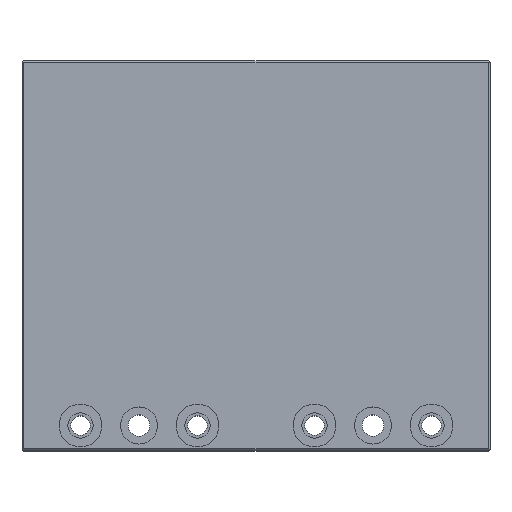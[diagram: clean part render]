
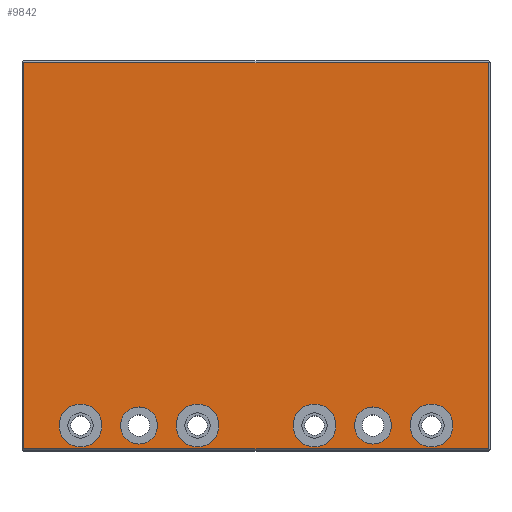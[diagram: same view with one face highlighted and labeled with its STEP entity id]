
A CAD part, top view. The second image highlights one B-rep face of the part: STEP entity #9842.
In plain terms, the highlighted planar face has unit normal (0, 0, 1).
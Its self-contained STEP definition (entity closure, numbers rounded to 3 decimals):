
#141 = ORIENTED_EDGE ( 'NONE', *, *, #6061, .F. ) ;
#142 = ORIENTED_EDGE ( 'NONE', *, *, #11144, .F. ) ;
#395 = DIRECTION ( 'NONE',  ( 0., 0., 1. ) ) ;
#401 = DIRECTION ( 'NONE',  ( 1., 0., 0. ) ) ;
#470 = PLANE ( 'NONE',  #3893 ) ;
#548 = CIRCLE ( 'NONE', #10756, 5.5 ) ;
#555 = CARTESIAN_POINT ( 'NONE',  ( 121.824, 147.019, 87.828 ) ) ;
#595 = EDGE_CURVE ( 'NONE', #10716, #13329, #7020, .T. ) ;
#636 = DIRECTION ( 'NONE',  ( 1., 0., 0. ) ) ;
#683 = DIRECTION ( 'NONE',  ( 0., 0., 1. ) ) ;
#684 = CARTESIAN_POINT ( 'NONE',  ( 127.324, 147.019, 87.828 ) ) ;
#703 = ORIENTED_EDGE ( 'NONE', *, *, #12998, .T. ) ;
#734 = CARTESIAN_POINT ( 'NONE',  ( 76.824, 147.019, 87.828 ) ) ;
#1073 = VERTEX_POINT ( 'NONE', #8623 ) ;
#1148 = EDGE_CURVE ( 'NONE', #1707, #12947, #9068, .T. ) ;
#1167 = VERTEX_POINT ( 'NONE', #5657 ) ;
#1292 = CIRCLE ( 'NONE', #3554, 5.5 ) ;
#1375 = VECTOR ( 'NONE', #11668, 1000. ) ;
#1455 = CARTESIAN_POINT ( 'NONE',  ( 106.824, 190.519, 87.828 ) ) ;
#1492 = CARTESIAN_POINT ( 'NONE',  ( 47.324, 240.019, 87.828 ) ) ;
#1595 = AXIS2_PLACEMENT_3D ( 'NONE', #555, #8112, #3802 ) ;
#1632 = ORIENTED_EDGE ( 'NONE', *, *, #1916, .F. ) ;
#1677 = CIRCLE ( 'NONE', #4491, 5.5 ) ;
#1687 = DIRECTION ( 'NONE',  ( 1., 0., 0. ) ) ;
#1707 = VERTEX_POINT ( 'NONE', #13543 ) ;
#1916 = EDGE_CURVE ( 'NONE', #2502, #1073, #5821, .T. ) ;
#2011 = VERTEX_POINT ( 'NONE', #4116 ) ;
#2018 = DIRECTION ( 'NONE',  ( 0., 0., 1. ) ) ;
#2099 = FACE_BOUND ( 'NONE', #13306, .T. ) ;
#2161 = CARTESIAN_POINT ( 'NONE',  ( 151.824, 147.019, 87.828 ) ) ;
#2265 = AXIS2_PLACEMENT_3D ( 'NONE', #11560, #12692, #12561 ) ;
#2468 = EDGE_CURVE ( 'NONE', #1167, #12604, #8387, .T. ) ;
#2502 = VERTEX_POINT ( 'NONE', #11331 ) ;
#2566 = DIRECTION ( 'NONE',  ( 1., 0., 0. ) ) ;
#2585 = DIRECTION ( 'NONE',  ( 0., 0., 1. ) ) ;
#2640 = VERTEX_POINT ( 'NONE', #1492 ) ;
#2760 = VERTEX_POINT ( 'NONE', #684 ) ;
#2787 = EDGE_LOOP ( 'NONE', ( #11789, #703, #8213, #8614 ) ) ;
#2803 = DIRECTION ( 'NONE',  ( 0., -1., 0. ) ) ;
#3045 = ORIENTED_EDGE ( 'NONE', *, *, #11260, .F. ) ;
#3055 = VERTEX_POINT ( 'NONE', #8475 ) ;
#3176 = ORIENTED_EDGE ( 'NONE', *, *, #12691, .F. ) ;
#3247 = DIRECTION ( 'NONE',  ( 1., 0., 0. ) ) ;
#3377 = CIRCLE ( 'NONE', #9270, 5.5 ) ;
#3476 = EDGE_LOOP ( 'NONE', ( #3176, #141 ) ) ;
#3554 = AXIS2_PLACEMENT_3D ( 'NONE', #2161, #6336, #8552 ) ;
#3677 = EDGE_CURVE ( 'NONE', #12604, #2640, #4178, .T. ) ;
#3720 = FACE_BOUND ( 'NONE', #5077, .T. ) ;
#3802 = DIRECTION ( 'NONE',  ( 1., 0., 0. ) ) ;
#3893 = AXIS2_PLACEMENT_3D ( 'NONE', #1455, #8917, #11996 ) ;
#3978 = DIRECTION ( 'NONE',  ( -1., 0., 0. ) ) ;
#4116 = CARTESIAN_POINT ( 'NONE',  ( 47.324, 141.019, 87.828 ) ) ;
#4178 = LINE ( 'NONE', #12439, #6634 ) ;
#4254 = ORIENTED_EDGE ( 'NONE', *, *, #13416, .F. ) ;
#4471 = CARTESIAN_POINT ( 'NONE',  ( 56.324, 147.019, 87.828 ) ) ;
#4491 = AXIS2_PLACEMENT_3D ( 'NONE', #7200, #10391, #3247 ) ;
#4755 = EDGE_LOOP ( 'NONE', ( #4254, #142 ) ) ;
#4863 = DIRECTION ( 'NONE',  ( 0., 0., 1. ) ) ;
#4883 = VECTOR ( 'NONE', #4944, 1000. ) ;
#4944 = DIRECTION ( 'NONE',  ( 0., 1., 0. ) ) ;
#5026 = ORIENTED_EDGE ( 'NONE', *, *, #1148, .F. ) ;
#5077 = EDGE_LOOP ( 'NONE', ( #11960, #5026 ) ) ;
#5222 = AXIS2_PLACEMENT_3D ( 'NONE', #8502, #5413, #12933 ) ;
#5312 = EDGE_CURVE ( 'NONE', #13329, #10716, #9758, .T. ) ;
#5413 = DIRECTION ( 'NONE',  ( 0., 0., 1. ) ) ;
#5592 = EDGE_CURVE ( 'NONE', #12947, #1707, #1292, .T. ) ;
#5657 = CARTESIAN_POINT ( 'NONE',  ( 166.324, 141.019, 87.828 ) ) ;
#5821 = CIRCLE ( 'NONE', #5222, 5.5 ) ;
#5832 = EDGE_LOOP ( 'NONE', ( #1632, #11471 ) ) ;
#5912 = CARTESIAN_POINT ( 'NONE',  ( 116.324, 147.019, 87.828 ) ) ;
#5961 = AXIS2_PLACEMENT_3D ( 'NONE', #7592, #6589, #11009 ) ;
#6056 = CIRCLE ( 'NONE', #11060, 5.5 ) ;
#6061 = EDGE_CURVE ( 'NONE', #6688, #2760, #3377, .T. ) ;
#6336 = DIRECTION ( 'NONE',  ( 0., 0., 1. ) ) ;
#6365 = DIRECTION ( 'NONE',  ( 1., 0., 0. ) ) ;
#6447 = CIRCLE ( 'NONE', #1595, 5.5 ) ;
#6589 = DIRECTION ( 'NONE',  ( 0., 0., 1. ) ) ;
#6634 = VECTOR ( 'NONE', #3978, 1000. ) ;
#6645 = EDGE_CURVE ( 'NONE', #2640, #2011, #8723, .T. ) ;
#6688 = VERTEX_POINT ( 'NONE', #5912 ) ;
#7020 = CIRCLE ( 'NONE', #8291, 4.75 ) ;
#7032 = ORIENTED_EDGE ( 'NONE', *, *, #5312, .F. ) ;
#7092 = EDGE_CURVE ( 'NONE', #10880, #7454, #9035, .T. ) ;
#7200 = CARTESIAN_POINT ( 'NONE',  ( 61.824, 147.019, 87.828 ) ) ;
#7345 = FACE_BOUND ( 'NONE', #3476, .T. ) ;
#7454 = VERTEX_POINT ( 'NONE', #12661 ) ;
#7528 = FACE_BOUND ( 'NONE', #5832, .T. ) ;
#7592 = CARTESIAN_POINT ( 'NONE',  ( 136.824, 147.019, 87.828 ) ) ;
#7696 = ORIENTED_EDGE ( 'NONE', *, *, #7092, .F. ) ;
#7959 = CARTESIAN_POINT ( 'NONE',  ( 72.074, 147.019, 87.828 ) ) ;
#8112 = DIRECTION ( 'NONE',  ( 0., 0., 1. ) ) ;
#8117 = EDGE_CURVE ( 'NONE', #1073, #2502, #548, .T. ) ;
#8213 = ORIENTED_EDGE ( 'NONE', *, *, #2468, .T. ) ;
#8291 = AXIS2_PLACEMENT_3D ( 'NONE', #12822, #2018, #6365 ) ;
#8387 = LINE ( 'NONE', #12372, #4883 ) ;
#8475 = CARTESIAN_POINT ( 'NONE',  ( 67.324, 147.019, 87.828 ) ) ;
#8502 = CARTESIAN_POINT ( 'NONE',  ( 91.824, 147.019, 87.828 ) ) ;
#8552 = DIRECTION ( 'NONE',  ( 1., 0., 0. ) ) ;
#8614 = ORIENTED_EDGE ( 'NONE', *, *, #3677, .T. ) ;
#8623 = CARTESIAN_POINT ( 'NONE',  ( 86.324, 147.019, 87.828 ) ) ;
#8723 = LINE ( 'NONE', #9191, #11088 ) ;
#8886 = CARTESIAN_POINT ( 'NONE',  ( 61.824, 147.019, 87.828 ) ) ;
#8917 = DIRECTION ( 'NONE',  ( 0., 0., -1. ) ) ;
#9035 = CIRCLE ( 'NONE', #5961, 4.75 ) ;
#9068 = CIRCLE ( 'NONE', #13509, 5.5 ) ;
#9080 = CARTESIAN_POINT ( 'NONE',  ( 81.574, 147.019, 87.828 ) ) ;
#9191 = CARTESIAN_POINT ( 'NONE',  ( 47.324, 190.519, 87.828 ) ) ;
#9270 = AXIS2_PLACEMENT_3D ( 'NONE', #10695, #2585, #11029 ) ;
#9434 = CARTESIAN_POINT ( 'NONE',  ( 157.324, 147.019, 87.828 ) ) ;
#9680 = AXIS2_PLACEMENT_3D ( 'NONE', #734, #683, #636 ) ;
#9758 = CIRCLE ( 'NONE', #9680, 4.75 ) ;
#9842 = ADVANCED_FACE ( 'NONE', ( #2099, #11912, #13242, #7528, #13069, #7345, #3720 ), #470, .F. ) ;
#9871 = CARTESIAN_POINT ( 'NONE',  ( 151.824, 147.019, 87.828 ) ) ;
#10284 = CARTESIAN_POINT ( 'NONE',  ( 91.824, 147.019, 87.828 ) ) ;
#10391 = DIRECTION ( 'NONE',  ( 0., 0., 1. ) ) ;
#10479 = LINE ( 'NONE', #13788, #1375 ) ;
#10695 = CARTESIAN_POINT ( 'NONE',  ( 121.824, 147.019, 87.828 ) ) ;
#10716 = VERTEX_POINT ( 'NONE', #7959 ) ;
#10756 = AXIS2_PLACEMENT_3D ( 'NONE', #10284, #4863, #1687 ) ;
#10880 = VERTEX_POINT ( 'NONE', #12898 ) ;
#11009 = DIRECTION ( 'NONE',  ( 1., 0., 0. ) ) ;
#11029 = DIRECTION ( 'NONE',  ( 1., 0., 0. ) ) ;
#11060 = AXIS2_PLACEMENT_3D ( 'NONE', #8886, #395, #2566 ) ;
#11088 = VECTOR ( 'NONE', #2803, 1000. ) ;
#11144 = EDGE_CURVE ( 'NONE', #11599, #3055, #6056, .T. ) ;
#11234 = ORIENTED_EDGE ( 'NONE', *, *, #595, .F. ) ;
#11260 = EDGE_CURVE ( 'NONE', #7454, #10880, #13767, .T. ) ;
#11331 = CARTESIAN_POINT ( 'NONE',  ( 97.324, 147.019, 87.828 ) ) ;
#11370 = EDGE_LOOP ( 'NONE', ( #3045, #7696 ) ) ;
#11471 = ORIENTED_EDGE ( 'NONE', *, *, #8117, .F. ) ;
#11560 = CARTESIAN_POINT ( 'NONE',  ( 136.824, 147.019, 87.828 ) ) ;
#11599 = VERTEX_POINT ( 'NONE', #4471 ) ;
#11668 = DIRECTION ( 'NONE',  ( 1., 0., 0. ) ) ;
#11789 = ORIENTED_EDGE ( 'NONE', *, *, #6645, .T. ) ;
#11912 = FACE_BOUND ( 'NONE', #11370, .T. ) ;
#11960 = ORIENTED_EDGE ( 'NONE', *, *, #5592, .F. ) ;
#11996 = DIRECTION ( 'NONE',  ( -1., 0., 0. ) ) ;
#12057 = DIRECTION ( 'NONE',  ( 0., 0., 1. ) ) ;
#12072 = CARTESIAN_POINT ( 'NONE',  ( 166.324, 240.019, 87.828 ) ) ;
#12372 = CARTESIAN_POINT ( 'NONE',  ( 166.324, 190.519, 87.828 ) ) ;
#12439 = CARTESIAN_POINT ( 'NONE',  ( 106.824, 240.019, 87.828 ) ) ;
#12561 = DIRECTION ( 'NONE',  ( 1., 0., 0. ) ) ;
#12604 = VERTEX_POINT ( 'NONE', #12072 ) ;
#12661 = CARTESIAN_POINT ( 'NONE',  ( 141.574, 147.019, 87.828 ) ) ;
#12691 = EDGE_CURVE ( 'NONE', #2760, #6688, #6447, .T. ) ;
#12692 = DIRECTION ( 'NONE',  ( 0., 0., 1. ) ) ;
#12822 = CARTESIAN_POINT ( 'NONE',  ( 76.824, 147.019, 87.828 ) ) ;
#12898 = CARTESIAN_POINT ( 'NONE',  ( 132.074, 147.019, 87.828 ) ) ;
#12933 = DIRECTION ( 'NONE',  ( 1., 0., 0. ) ) ;
#12947 = VERTEX_POINT ( 'NONE', #9434 ) ;
#12998 = EDGE_CURVE ( 'NONE', #2011, #1167, #10479, .T. ) ;
#13069 = FACE_BOUND ( 'NONE', #4755, .T. ) ;
#13242 = FACE_OUTER_BOUND ( 'NONE', #2787, .T. ) ;
#13306 = EDGE_LOOP ( 'NONE', ( #7032, #11234 ) ) ;
#13329 = VERTEX_POINT ( 'NONE', #9080 ) ;
#13416 = EDGE_CURVE ( 'NONE', #3055, #11599, #1677, .T. ) ;
#13509 = AXIS2_PLACEMENT_3D ( 'NONE', #9871, #12057, #401 ) ;
#13543 = CARTESIAN_POINT ( 'NONE',  ( 146.324, 147.019, 87.828 ) ) ;
#13767 = CIRCLE ( 'NONE', #2265, 4.75 ) ;
#13788 = CARTESIAN_POINT ( 'NONE',  ( 106.824, 141.019, 87.828 ) ) ;
